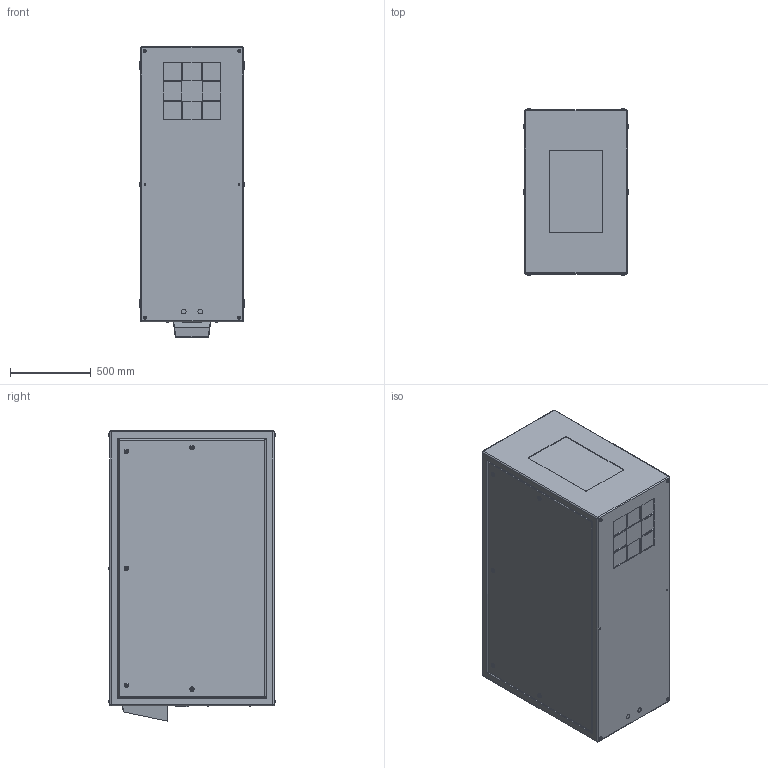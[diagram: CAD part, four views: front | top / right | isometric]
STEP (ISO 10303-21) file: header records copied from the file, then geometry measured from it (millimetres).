
FILE_DESCRIPTION (( 'STEP AP214' ), '1' );
FILE_NAME ('Cyclone 55.320.P.xx R08.STEP', '2020-08-12T17:49:36', ( '' ), ( '' ), 'SwSTEP 2.0', 'SolidWorks 2020', '' );
FILE_SCHEMA (( 'AUTOMOTIVE_DESIGN' ));
Length unit declared in the file: inch
Products named in the file (1): Cyclone 55.320.P.xx R08
Bounding box: 647.7 x 1030.73 x 1797.05 mm (x, y, z)
Volume: 1095736978.2 mm3; surface area: 7660771.6 mm2
Topology: 1 solids, 1 shells, 539 faces, 1254 edges, 800 vertices
Faces by surface type: plane 293, cylinder 186, torus 52, sphere 8
Entity records: 20937 total; most frequent: DIRECTION 2754, CARTESIAN_POINT 2634, ORIENTED_EDGE 2492, EDGE_CURVE 1246, AXIS2_PLACEMENT_3D 984, VERTEX_POINT 800, LINE 786, VECTOR 786
